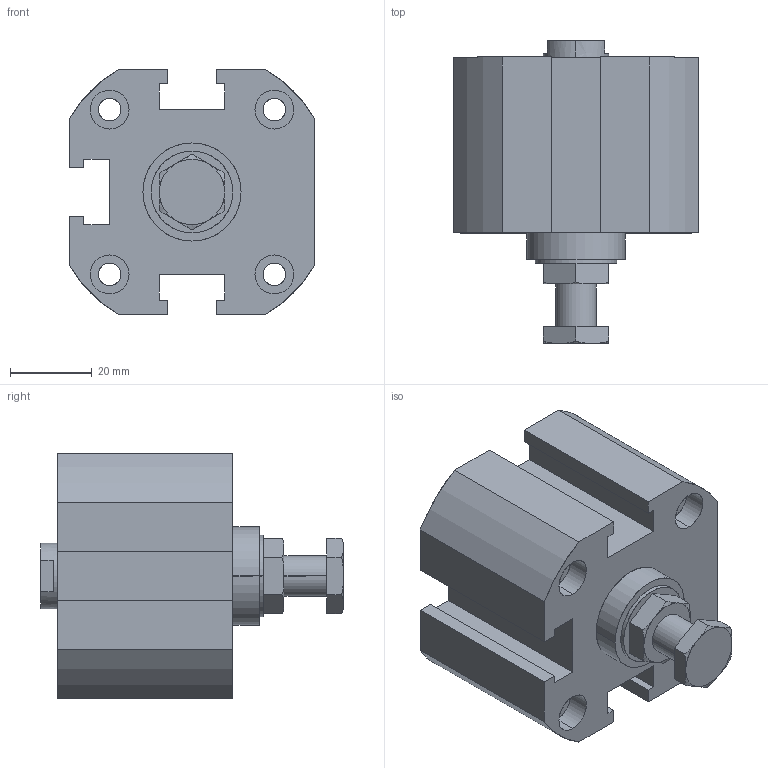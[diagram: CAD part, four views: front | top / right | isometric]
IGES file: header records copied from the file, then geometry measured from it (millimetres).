
Start section: SolidWorks IGES file using analytic representation for surfaces
Global section: file name: C:\Users\Toshiba\Desktop\XGA2-40-10.IGS; native system: SolidWorks 2014; preprocessor: SolidWorks 2014; author: Toshiba; date: 160524.104031; units: millimetre
Bounding box: 60 x 74 x 60 mm (x, y, z)
Surface area: 25952.8 mm2 (no closed solid volume)
Topology: 0 solids, 0 shells, 150 faces, 2674 edges, 2668 vertices
Faces by surface type: bspline 80, revolution 70
